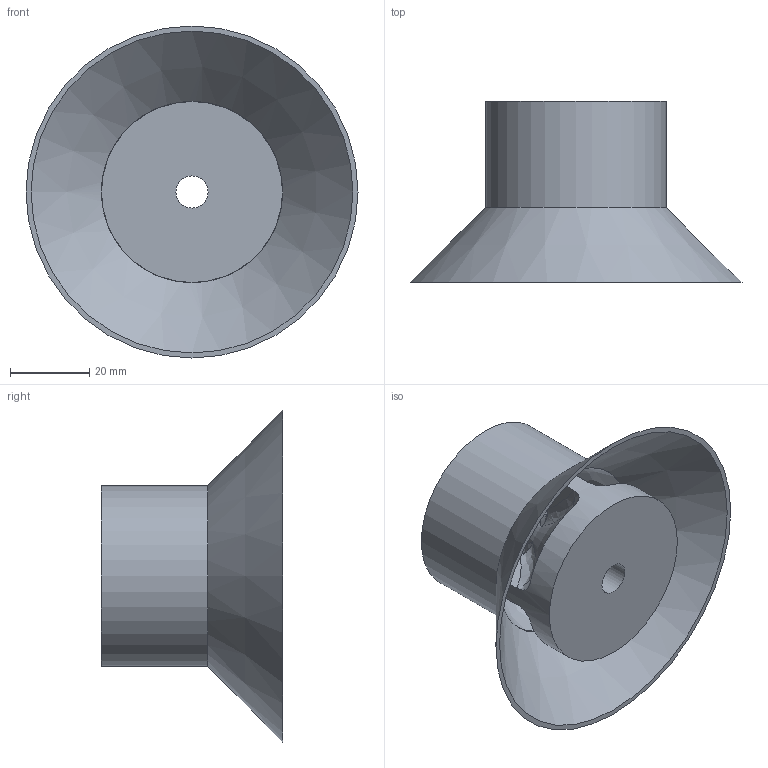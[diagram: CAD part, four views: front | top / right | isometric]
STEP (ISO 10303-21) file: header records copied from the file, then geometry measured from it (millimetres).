
FILE_DESCRIPTION(/* description */ (''),/* implementation_level */ '2;1');
FILE_NAME(/* name */ 'C:/Users/Owner/Desktop/KCAD 3Dp Fuel Filter Baffles Gen1/STEP Versions/1.8DIAx1.8 High Baffles STEP/1.8 Dia 32 CAL Baffle STEP.step',/* time_stamp */ '2019-06-09T15:42:05-04:00',/* author */ (''),/* organization */ (''),/* preprocessor_version */ 'ST-DEVELOPER v18',/* originating_system */ 'Autodesk Translation Framework v8.2.0.1029',/* authorisation */ '');
FILE_SCHEMA (('AUTOMOTIVE_DESIGN { 1 0 10303 214 3 1 1 }'));
Length unit declared in the file: inch
Products named in the file (1): baf 7 .320 cal
Bounding box: 83.82 x 45.72 x 83.82 mm (x, y, z)
Volume: 56813.1 mm3; surface area: 25728.5 mm2
Topology: 1 solids, 1 shells, 41 faces, 146 edges, 101 vertices
Faces by surface type: plane 16, bspline 13, cylinder 8, cone 2, torus 2
Full cylindrical faces by diameter (mm): 8.128 x2, 45.72 x2
Entity records: 2680 total; most frequent: CARTESIAN_POINT 1536, ORIENTED_EDGE 292, DIRECTION 162, EDGE_CURVE 146, VERTEX_POINT 101, B_SPLINE_CURVE_WITH_KNOTS 70, AXIS2_PLACEMENT_3D 66, EDGE_LOOP 45
